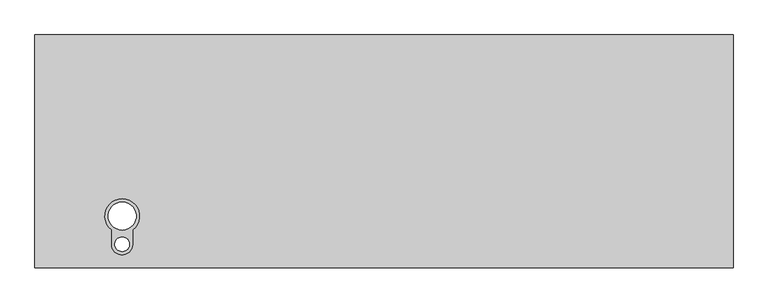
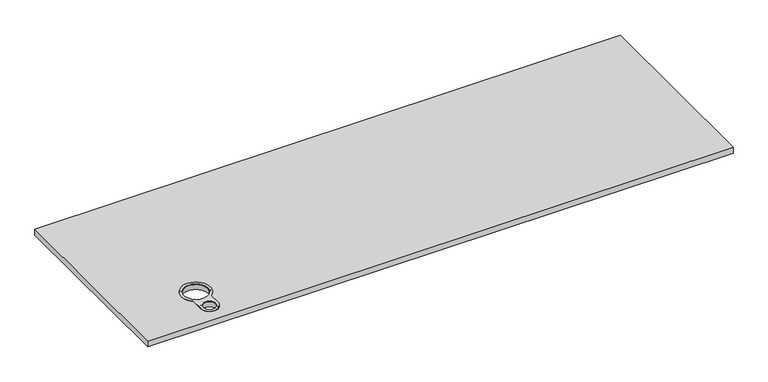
"""IFC4 building model written with IfcOpenShell, lengths in millimetres: furniture geometry, Geiger_GeigerOneCasegoods_CredenzaTopLowHeightWithLegGrommet : Veneer 72Wx 24Dx 0.75H."""

from ifc_helpers import new_model, si_unit, point, frame, frame_2d, origin, origin_with_axes, place, context, project, spatial, polyline, circle_curve, trimmed, segment, composite_curve, outline, extrude, source, transform, mapped, element, save


def furniture_22213a0b(model_context):
    return source(origin(), model_context, "Body", "SweptSolid", [
        extrude(outline(polyline([(1828.8, 0.0), (0.0, 0.0), (0.0, 609.6), (1828.8, 609.6), (1828.8, 0.0)]), holes=[composite_curve([segment(trimmed(circle_curve(frame_2d((228.6, 61.000002)), 23.1477449), [point((205.4522551, 61.000002))], [point((251.7477449, 61.000002))], True, "CARTESIAN"), True, "CONTINUOUS"), segment(trimmed(circle_curve(frame_2d((228.6, 61.000002)), 23.1477449), [point((251.7477449, 61.000002))], [point((205.4522551, 61.000002))], True, "CARTESIAN"), True, "CONTINUOUS")], self_intersect=False), composite_curve([segment(trimmed(circle_curve(frame_2d((228.6, 135.0057226)), 40.382326), [point((188.217674, 135.0057226))], [point((268.982326, 135.0057226))], True, "CARTESIAN"), True, "CONTINUOUS"), segment(trimmed(circle_curve(frame_2d((228.6, 135.0057226)), 40.382326), [point((268.982326, 135.0057226))], [point((188.217674, 135.0057226))], True, "CARTESIAN"), True, "CONTINUOUS")], self_intersect=False)]), origin_with_axes(), (0.0, 0.0, 1.0), 19.05),
        extrude(outline(composite_curve([segment(polyline([(200.6337167, 60.9055219), (200.6337167, 99.3804829)]), True, "CONTINUOUS"), segment(trimmed(circle_curve(frame_2d((228.6, 135.0057226)), 45.2909561), [point((200.6337167, 99.3804829))], [point((255.6337167, 98.6677415))], False, "CARTESIAN"), True, "CONTINUOUS"), segment(polyline([(255.6337167, 98.6677415), (255.6337167, 60.9055219)]), True, "CONTINUOUS"), segment(trimmed(circle_curve(frame_2d((228.1337167, 60.9055219)), 27.5), [point((255.6337167, 60.9055219))], [point((200.6337167, 60.9055219))], False, "CARTESIAN"), True, "CONTINUOUS")], self_intersect=False), holes=[composite_curve([segment(trimmed(circle_curve(frame_2d((228.6, 61.000002)), 18.9999985), [point((228.6, 42.0000035))], [point((228.6, 80.0000005))], True, "CARTESIAN"), True, "CONTINUOUS"), segment(trimmed(circle_curve(frame_2d((228.6, 61.000002)), 18.9999985), [point((228.6, 80.0000005))], [point((228.6, 42.0000035))], True, "CARTESIAN"), True, "CONTINUOUS")], self_intersect=False), composite_curve([segment(trimmed(circle_curve(frame_2d((228.6, 135.0057226)), 36.4999999), [point((228.6, 98.5057227))], [point((228.6, 171.5057224))], True, "CARTESIAN"), True, "CONTINUOUS"), segment(trimmed(circle_curve(frame_2d((228.6, 135.0057226)), 36.4999999), [point((228.6, 171.5057224))], [point((228.6, 98.5057227))], True, "CARTESIAN"), True, "CONTINUOUS")], self_intersect=False)]), frame((0.0, 0.0, 19.05), z_axis=(0.0, 0.0, 1.0), x_axis=(1.0, 0.0, 0.0)), (0.0, 0.0, 1.0), 1.55),
    ])


if __name__ == "__main__":
    model = new_model("IFC4")
    model_context = context("Model", 3, world=origin())
    ifc_project = project(units=[si_unit("LENGTHUNIT", "METRE", prefix="MILLI")], contexts=[model_context])
    site = spatial("IfcSite", under=ifc_project)
    building = spatial("IfcBuilding", under=site)
    placement = place(None, origin())
    furniture_shape = furniture_22213a0b(model_context)
    element("IfcFurniture", 1, ObjectType="Geiger_GeigerOneCasegoods_CredenzaTopLowHeightWithLegGrommet : Veneer 72Wx 24Dx 0.75H", at=placement, inside=building, context=model_context, shape_type="MappedRepresentation", body=[
        mapped(furniture_shape, transform((0.0, 0.0, 0.0), x_axis=(1.0, 0.0, 0.0), y_axis=(0.0, 1.0, 0.0), z_axis=(0.0, 0.0, 1.0))),
    ])
    save(model, "model.ifc")
